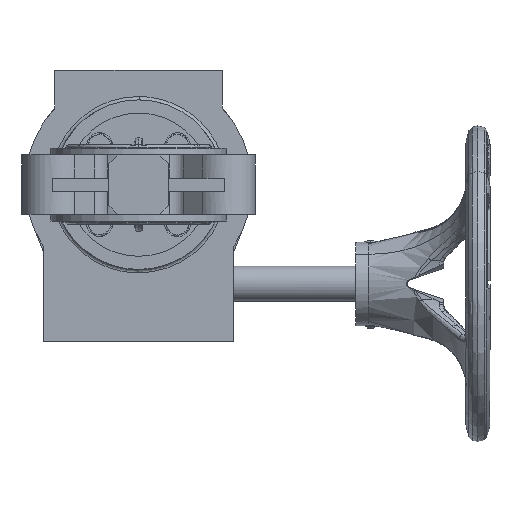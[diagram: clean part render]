
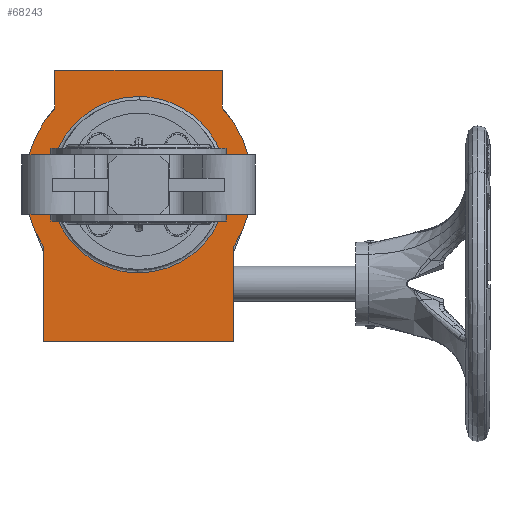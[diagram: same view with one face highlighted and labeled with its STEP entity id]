
A CAD part, front view. The second image highlights one B-rep face of the part: STEP entity #68243.
In plain terms, the highlighted planar face has unit normal (0, -1, 0).
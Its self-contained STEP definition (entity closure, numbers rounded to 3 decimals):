
#682 = EDGE_CURVE ( 'NONE', #56465, #21715, #58292, .T. ) ;
#1374 =( BOUNDED_CURVE ( )  B_SPLINE_CURVE ( 3, ( #82331, #10746, #18743, #61964 ),
 .UNSPECIFIED., .F., .F. ) 
 B_SPLINE_CURVE_WITH_KNOTS ( ( 4, 4 ),
 ( 0.997, 1. ),
 .UNSPECIFIED. ) 
 CURVE ( )  GEOMETRIC_REPRESENTATION_ITEM ( )  RATIONAL_B_SPLINE_CURVE ( ( 1., 1., 1., 1. ) ) 
 REPRESENTATION_ITEM ( '' )  );
#1475 = VERTEX_POINT ( 'NONE', #35229 ) ;
#2599 = CARTESIAN_POINT ( 'NONE',  ( 79.24, 120., -40. ) ) ;
#2650 = ORIENTED_EDGE ( 'NONE', *, *, #58293, .F. ) ;
#3728 = ORIENTED_EDGE ( 'NONE', *, *, #92276, .F. ) ;
#3813 = VECTOR ( 'NONE', #12107, 1000. ) ;
#4062 = VERTEX_POINT ( 'NONE', #60973 ) ;
#8548 = DIRECTION ( 'NONE',  ( 0., 1., 0. ) ) ;
#8554 =( BOUNDED_CURVE ( )  B_SPLINE_CURVE ( 3, ( #62462, #54356, #77090, #54819 ),
 .UNSPECIFIED., .F., .F. ) 
 B_SPLINE_CURVE_WITH_KNOTS ( ( 4, 4 ),
 ( 0., 0.997 ),
 .UNSPECIFIED. ) 
 CURVE ( )  GEOMETRIC_REPRESENTATION_ITEM ( )  RATIONAL_B_SPLINE_CURVE ( ( 1., 0.337, 0.337, 1. ) ) 
 REPRESENTATION_ITEM ( '' )  );
#9661 = DIRECTION ( 'NONE',  ( -1., 0., 0. ) ) ;
#9923 = VERTEX_POINT ( 'NONE', #30383 ) ;
#10746 = CARTESIAN_POINT ( 'NONE',  ( -0.256, 120., -39.999 ) ) ;
#12107 = DIRECTION ( 'NONE',  ( 0., 0., -1. ) ) ;
#12156 = EDGE_CURVE ( 'NONE', #87623, #4062, #76971, .T. ) ;
#12800 = LINE ( 'NONE', #63578, #31320 ) ;
#13496 = CARTESIAN_POINT ( 'NONE',  ( 38., 120., 0. ) ) ;
#14493 = EDGE_LOOP ( 'NONE', ( #69902, #38377, #19289, #3728 ) ) ;
#16020 = CARTESIAN_POINT ( 'NONE',  ( 0., 120., 0. ) ) ;
#16146 = VERTEX_POINT ( 'NONE', #57739 ) ;
#16276 = VECTOR ( 'NONE', #36425, 1000. ) ;
#17196 = LINE ( 'NONE', #46114, #44923 ) ;
#18743 = CARTESIAN_POINT ( 'NONE',  ( -0.128, 120., -40. ) ) ;
#19289 = ORIENTED_EDGE ( 'NONE', *, *, #91855, .F. ) ;
#21715 = VERTEX_POINT ( 'NONE', #25040 ) ;
#22208 = CARTESIAN_POINT ( 'NONE',  ( 43., 120., -28.342 ) ) ;
#22984 = ORIENTED_EDGE ( 'NONE', *, *, #55218, .F. ) ;
#24181 = ORIENTED_EDGE ( 'NONE', *, *, #58298, .F. ) ;
#24334 = CARTESIAN_POINT ( 'NONE',  ( 79.619, 120., 39.239 ) ) ;
#25040 = CARTESIAN_POINT ( 'NONE',  ( 38., 120., 52. ) ) ;
#27546 = VERTEX_POINT ( 'NONE', #22208 ) ;
#28386 = EDGE_LOOP ( 'NONE', ( #84346, #87691, #82616, #22984, #59758, #66205, #2650, #24181 ) ) ;
#28948 = CARTESIAN_POINT ( 'NONE',  ( 0.383, 120., 39.998 ) ) ;
#30383 = CARTESIAN_POINT ( 'NONE',  ( -43., 120., -71. ) ) ;
#31320 = VECTOR ( 'NONE', #49758, 1000. ) ;
#31437 = CARTESIAN_POINT ( 'NONE',  ( 0., 120., -71. ) ) ;
#32924 = CARTESIAN_POINT ( 'NONE',  ( -43., 120., -28.342 ) ) ;
#33434 = DIRECTION ( 'NONE',  ( 0., 0., 1. ) ) ;
#35229 = CARTESIAN_POINT ( 'NONE',  ( -0.383, 120., -39.998 ) ) ;
#36425 = DIRECTION ( 'NONE',  ( 1., 0., 0. ) ) ;
#36474 = CARTESIAN_POINT ( 'NONE',  ( 0.256, 120., 39.999 ) ) ;
#38377 = ORIENTED_EDGE ( 'NONE', *, *, #43902, .F. ) ;
#39843 = CIRCLE ( 'NONE', #42771, 51.5 ) ;
#40963 = LINE ( 'NONE', #13496, #3813 ) ;
#42262 =( BOUNDED_CURVE ( )  B_SPLINE_CURVE ( 3, ( #28948, #36474, #72573, #78751 ),
 .UNSPECIFIED., .F., .F. ) 
 B_SPLINE_CURVE_WITH_KNOTS ( ( 4, 4 ),
 ( 0.997, 1. ),
 .UNSPECIFIED. ) 
 CURVE ( )  GEOMETRIC_REPRESENTATION_ITEM ( )  RATIONAL_B_SPLINE_CURVE ( ( 1., 1., 1., 1. ) ) 
 REPRESENTATION_ITEM ( '' )  );
#42687 = DIRECTION ( 'NONE',  ( 0., 0., 1. ) ) ;
#42771 = AXIS2_PLACEMENT_3D ( 'NONE', #65279, #87950, #58130 ) ;
#43834 = VERTEX_POINT ( 'NONE', #61765 ) ;
#43902 = EDGE_CURVE ( 'NONE', #43834, #16146, #42262, .T. ) ;
#44011 = CARTESIAN_POINT ( 'NONE',  ( 0., 120., 52. ) ) ;
#44923 = VECTOR ( 'NONE', #75072, 1000. ) ;
#45038 = CARTESIAN_POINT ( 'NONE',  ( -38., 120., 52. ) ) ;
#46114 = CARTESIAN_POINT ( 'NONE',  ( 43., 120., 0. ) ) ;
#46160 =( BOUNDED_CURVE ( )  B_SPLINE_CURVE ( 3, ( #82650, #2599, #24334, #74632 ),
 .UNSPECIFIED., .F., .F. ) 
 B_SPLINE_CURVE_WITH_KNOTS ( ( 4, 4 ),
 ( 0., 0.997 ),
 .UNSPECIFIED. ) 
 CURVE ( )  GEOMETRIC_REPRESENTATION_ITEM ( )  RATIONAL_B_SPLINE_CURVE ( ( 1., 0.337, 0.337, 1. ) ) 
 REPRESENTATION_ITEM ( '' )  );
#46973 = CARTESIAN_POINT ( 'NONE',  ( 0., 120., -40. ) ) ;
#47975 = VECTOR ( 'NONE', #9661, 1000. ) ;
#49758 = DIRECTION ( 'NONE',  ( 0., 0., 1. ) ) ;
#49851 = DIRECTION ( 'NONE',  ( 0., 1., 0. ) ) ;
#54356 = CARTESIAN_POINT ( 'NONE',  ( -79.24, 120., 40. ) ) ;
#54361 = LINE ( 'NONE', #91761, #87949 ) ;
#54757 = VERTEX_POINT ( 'NONE', #79894 ) ;
#54819 = CARTESIAN_POINT ( 'NONE',  ( -0.383, 120., -39.998 ) ) ;
#55218 = EDGE_CURVE ( 'NONE', #4062, #56465, #54361, .T. ) ;
#56465 = VERTEX_POINT ( 'NONE', #45038 ) ;
#57739 = CARTESIAN_POINT ( 'NONE',  ( 0., 120., 40. ) ) ;
#58130 = DIRECTION ( 'NONE',  ( 0., 0., 1. ) ) ;
#58292 = LINE ( 'NONE', #44011, #16276 ) ;
#58293 = EDGE_CURVE ( 'NONE', #54757, #9923, #74609, .T. ) ;
#58298 = EDGE_CURVE ( 'NONE', #27546, #54757, #17196, .T. ) ;
#59224 = FACE_BOUND ( 'NONE', #14493, .T. ) ;
#59758 = ORIENTED_EDGE ( 'NONE', *, *, #12156, .F. ) ;
#59785 = CARTESIAN_POINT ( 'NONE',  ( 0., 120., 0. ) ) ;
#60973 = CARTESIAN_POINT ( 'NONE',  ( -38., 120., 34.76 ) ) ;
#61490 = VERTEX_POINT ( 'NONE', #70605 ) ;
#61765 = CARTESIAN_POINT ( 'NONE',  ( 0.383, 120., 39.998 ) ) ;
#61964 = CARTESIAN_POINT ( 'NONE',  ( 0., 120., -40. ) ) ;
#62462 = CARTESIAN_POINT ( 'NONE',  ( 0., 120., 40. ) ) ;
#63578 = CARTESIAN_POINT ( 'NONE',  ( -43., 120., 0. ) ) ;
#65279 = CARTESIAN_POINT ( 'NONE',  ( 0., 120., 0. ) ) ;
#65861 = EDGE_CURVE ( 'NONE', #61490, #27546, #39843, .T. ) ;
#65947 = DIRECTION ( 'NONE',  ( 0., 0., -1. ) ) ;
#66205 = ORIENTED_EDGE ( 'NONE', *, *, #74640, .F. ) ;
#68243 = ADVANCED_FACE ( 'NONE', ( #59224, #73415 ), #81449, .F. ) ;
#69902 = ORIENTED_EDGE ( 'NONE', *, *, #81724, .F. ) ;
#70605 = CARTESIAN_POINT ( 'NONE',  ( 38., 120., 34.76 ) ) ;
#72573 = CARTESIAN_POINT ( 'NONE',  ( 0.128, 120., 40. ) ) ;
#73415 = FACE_OUTER_BOUND ( 'NONE', #28386, .T. ) ;
#73958 = AXIS2_PLACEMENT_3D ( 'NONE', #59785, #8548, #65947 ) ;
#74609 = LINE ( 'NONE', #31437, #47975 ) ;
#74632 = CARTESIAN_POINT ( 'NONE',  ( 0.383, 120., 39.998 ) ) ;
#74640 = EDGE_CURVE ( 'NONE', #9923, #87623, #12800, .T. ) ;
#75072 = DIRECTION ( 'NONE',  ( 0., 0., -1. ) ) ;
#76971 = CIRCLE ( 'NONE', #73958, 51.5 ) ;
#77090 = CARTESIAN_POINT ( 'NONE',  ( -79.619, 120., -39.239 ) ) ;
#78751 = CARTESIAN_POINT ( 'NONE',  ( 0., 120., 40. ) ) ;
#78854 = AXIS2_PLACEMENT_3D ( 'NONE', #16020, #49851, #42687 ) ;
#79894 = CARTESIAN_POINT ( 'NONE',  ( 43., 120., -71. ) ) ;
#81449 = PLANE ( 'NONE',  #78854 ) ;
#81724 = EDGE_CURVE ( 'NONE', #16146, #1475, #8554, .T. ) ;
#82331 = CARTESIAN_POINT ( 'NONE',  ( -0.383, 120., -39.998 ) ) ;
#82616 = ORIENTED_EDGE ( 'NONE', *, *, #682, .F. ) ;
#82650 = CARTESIAN_POINT ( 'NONE',  ( 0., 120., -40. ) ) ;
#84346 = ORIENTED_EDGE ( 'NONE', *, *, #65861, .F. ) ;
#87623 = VERTEX_POINT ( 'NONE', #32924 ) ;
#87677 = EDGE_CURVE ( 'NONE', #21715, #61490, #40963, .T. ) ;
#87691 = ORIENTED_EDGE ( 'NONE', *, *, #87677, .F. ) ;
#87949 = VECTOR ( 'NONE', #33434, 1000. ) ;
#87950 = DIRECTION ( 'NONE',  ( 0., 1., 0. ) ) ;
#88878 = VERTEX_POINT ( 'NONE', #46973 ) ;
#91761 = CARTESIAN_POINT ( 'NONE',  ( -38., 120., 0. ) ) ;
#91855 = EDGE_CURVE ( 'NONE', #88878, #43834, #46160, .T. ) ;
#92276 = EDGE_CURVE ( 'NONE', #1475, #88878, #1374, .T. ) ;
